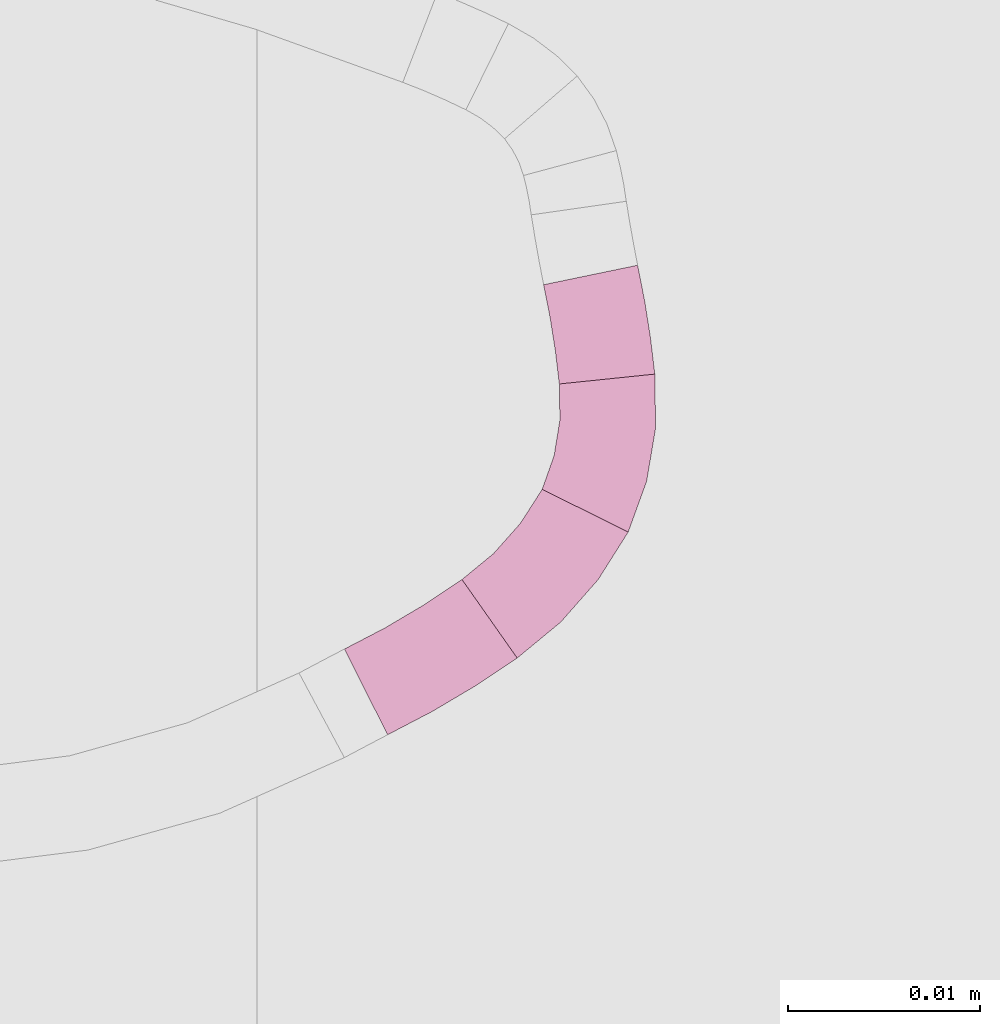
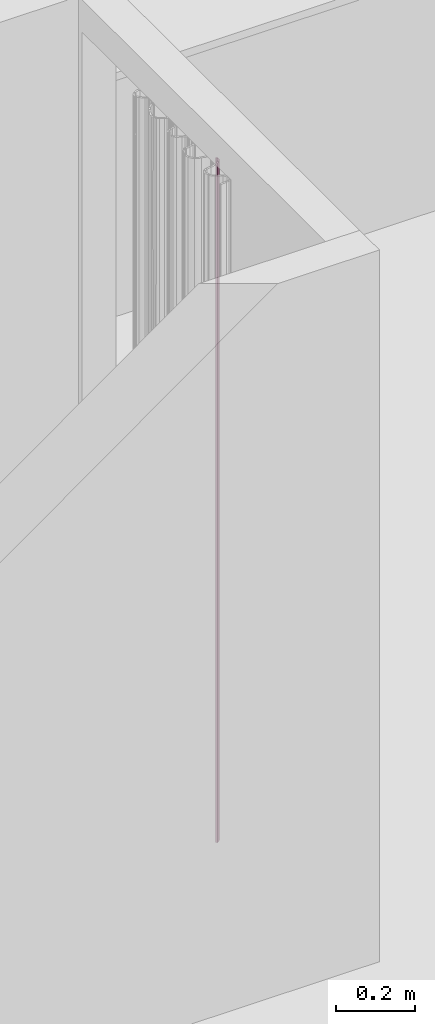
# One storey, part 291 of 418: 4 furnishings.
"""IFC2X3 building model written with IfcOpenShell, lengths in millimetres."""

from ifc_helpers import new_model, entity, si_unit, converted_unit, derived_unit, money_unit, point, direction, frame, frame_2d, origin_with_axes, place, context, subcontext, project, spatial, polyline, circle_curve, parameter, trimmed, segment, composite_curve, outline, extrude, material, type_object, element, save


model = new_model("IFC2X3")

# Units and contexts
model_context = context("Model", 3, precision=0.01, world=origin_with_axes(), true_north=direction((0.0, 1.0)))
body_context = subcontext(model_context, "Body", "Model", "MODEL_VIEW")
ifc_project = project(units=[si_unit("LENGTHUNIT", "METRE", prefix="MILLI"), si_unit("AREAUNIT", "SQUARE_METRE"), si_unit("VOLUMEUNIT", "CUBIC_METRE"), converted_unit("PLANEANGLEUNIT", "DEGREE", entity("IfcPlaneAngleMeasure", 0.0174532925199), si_unit("PLANEANGLEUNIT", "RADIAN"), dimensions=[0, 0, 0, 0, 0, 0, 0]), si_unit("SOLIDANGLEUNIT", "STERADIAN"), money_unit("EUR"), converted_unit("TIMEUNIT", "Year", entity("IfcTimeMeasure", 31556926.0), si_unit("TIMEUNIT", "SECOND"), dimensions=[0, 0, 1, 0, 0, 0, 0]), si_unit("MASSUNIT", "GRAM", prefix="KILO"), si_unit("THERMODYNAMICTEMPERATUREUNIT", "DEGREE_CELSIUS"), si_unit("LUMINOUSINTENSITYUNIT", "LUMEN"), si_unit("ENERGYUNIT", "JOULE", prefix="MEGA"), derived_unit("THERMALCONDUCTANCEUNIT", [(si_unit("POWERUNIT", "WATT"), 1), (si_unit("LENGTHUNIT", "METRE"), -1), (si_unit("THERMODYNAMICTEMPERATUREUNIT", "KELVIN"), -1)]), derived_unit("SPECIFICHEATCAPACITYUNIT", [(si_unit("ENERGYUNIT", "JOULE"), 1), (si_unit("MASSUNIT", "GRAM", prefix="KILO"), -1), (si_unit("THERMODYNAMICTEMPERATUREUNIT", "KELVIN"), -1)]), derived_unit("MASSDENSITYUNIT", [(si_unit("MASSUNIT", "GRAM", prefix="KILO"), 1), (si_unit("VOLUMEUNIT", "CUBIC_METRE"), -1)])], contexts=[model_context])

# Site, building, storey
site_placement = place(None, origin_with_axes())
site = spatial("IfcSite", under=ifc_project, at=site_placement, Name="Paldiski mnt 245/1, Tallinn, Harjumaa", CompositionType="COMPLEX")
building_placement = place(site_placement, origin_with_axes())
building = spatial("IfcBuilding", under=site, at=building_placement, Name="RKAS Hoone üldnimetus (kasutust iseloomustav) -> IFC Project Manager -> SOLIBRI", CompositionType="ELEMENT")
storey_placement = place(building_placement, origin_with_axes())
storey = spatial("IfcBuildingStorey", under=building, at=storey_placement, Name="Esimene korrus", CompositionType="ELEMENT", Elevation=0.0)

# Furnishings
ifc_material = material(Name="KON-00_GENEERILINE - KONSTRUKTSIOON")
furniture_type = type_object("IfcFurnitureType", Name="KON-00_GENEERILINE - KONSTRUKTSIOON 5", AssemblyPlace="NOTDEFINED")
furnishing_1_placement = place(storey_placement, frame((-44017.8421632, -2245.91739409, 0.0), z_axis=(0.0, 0.0, 1.0), x_axis=(0.899324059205, 0.437282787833, 0.0)))
element("IfcFurnishingElement", 1, at=furnishing_1_placement, inside=storey, type_object=furniture_type, material=ifc_material, Name="SS-51", context=body_context, shape_type="SweptSolid", body=[
    extrude(outline(composite_curve([segment(trimmed(circle_curve(frame_2d((0.0, 43.7055931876), x_axis=(0.0014492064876, -0.9999989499)), 48.7055931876), [point((0.0705844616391, -4.99994885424)), parameter(0.0)], [point((7.88707640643, -4.35716613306)), parameter(9.23611888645)], True, "CARTESIAN"), True, "CONTINUOUS"), segment(polyline([(7.88707640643, -4.35716613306), (7.08973278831, 0.578866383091)]), True, "CONTINUOUS"), segment(trimmed(circle_curve(frame_2d((0.0, 43.7055931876), x_axis=(0.0, -1.0)), 43.7055931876), [point((7.08973278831, 0.578866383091)), parameter(9.33552603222)], [point((0.0, 0.0)), parameter(0.0)], False, "CARTESIAN"), True, "CONTINUOUS"), segment(polyline([(0.0, 0.0), (0.0705844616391, -4.99994885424)]), True, "CONTINUOUS")], self_intersect=False)), origin_with_axes(), (0.0, 0.0, 1.0), 2100.0),
])
furnishing_2_placement = place(storey_placement, frame((-44011.7193243, -2242.29658751, 0.0), z_axis=(0.0, 0.0, 1.0), x_axis=(0.819853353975, 0.572573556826, 0.0)))
element("IfcFurnishingElement", 2, at=furnishing_2_placement, inside=storey, type_object=furniture_type, material=ifc_material, Name="SS-50", context=body_context, shape_type="SweptSolid", body=[
    extrude(outline(composite_curve([segment(trimmed(circle_curve(frame_2d((0.0, 13.5477258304), x_axis=(0.00083177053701, -0.999999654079)), 18.5477258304), [point((0.0154274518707, -4.99999358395)), parameter(0.0)], [point((8.51264229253, -2.93114108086)), parameter(27.2722852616)], True, "CARTESIAN"), True, "CONTINUOUS"), segment(polyline([(8.51264229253, -2.93114108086), (6.11522540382, 1.45868561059)]), True, "CONTINUOUS"), segment(trimmed(circle_curve(frame_2d((0.0, 13.5477258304), x_axis=(0.0, -1.0)), 13.5477258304), [point((6.11522540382, 1.45868561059)), parameter(26.83250865)], [point((-1.06581410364e-10, 0.0)), parameter(0.0)], False, "CARTESIAN"), True, "CONTINUOUS"), segment(polyline([(-1.06581410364e-10, 0.0), (0.0154274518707, -4.99999358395)]), True, "CONTINUOUS")], self_intersect=False)), origin_with_axes(), (0.0, 0.0, 1.0), 2100.0),
])
furnishing_3_placement = place(storey_placement, frame((-44007.540941, -2237.59926286, 0.0), z_axis=(0.0, 0.0, 1.0), x_axis=(0.415536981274, 0.909576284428, 0.0)))
element("IfcFurnishingElement", 3, at=furnishing_3_placement, inside=storey, type_object=furniture_type, material=ifc_material, Name="SS-49", context=body_context, shape_type="SweptSolid", body=[
    extrude(outline(composite_curve([segment(trimmed(circle_curve(frame_2d((0.0, 10.5171573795), x_axis=(-0.0105562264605, -0.999944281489)), 15.5171573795), [point((-0.163802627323, -4.9991354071)), parameter(0.0)], [point((7.89570302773, -2.84098795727)), parameter(31.1912290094)], True, "CARTESIAN"), True, "CONTINUOUS"), segment(polyline([(7.89570302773, -2.84098795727), (5.36177415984, 1.46939648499)]), True, "CONTINUOUS"), segment(trimmed(circle_curve(frame_2d((0.0, 10.5171573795), x_axis=(0.0, -1.0)), 10.5171573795), [point((5.36177415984, 1.46939648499)), parameter(30.6513150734)], [point((0.0, 0.0)), parameter(0.0)], False, "CARTESIAN"), True, "CONTINUOUS"), segment(polyline([(0.0, 0.0), (-0.163802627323, -4.9991354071)]), True, "CONTINUOUS")], self_intersect=False)), origin_with_axes(), (0.0, 0.0, 1.0), 2100.0),
])
furnishing_4_placement = place(storey_placement, frame((-44006.6494538, -2232.11173166, 0.0), z_axis=(0.0, 0.0, 1.0), x_axis=(-0.099702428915, 0.99501729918, 0.0)))
element("IfcFurnishingElement", 4, at=furnishing_4_placement, inside=storey, type_object=furniture_type, material=ifc_material, Name="SS-48", context=body_context, shape_type="SweptSolid", body=[
    extrude(outline(composite_curve([segment(trimmed(circle_curve(frame_2d((0.0, 46.0433148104), x_axis=(0.000298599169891, -0.999999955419)), 51.0433148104), [point((0.0152414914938, -4.99999772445)), parameter(0.0)], [point((5.74665625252, -4.67547784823)), parameter(6.44718006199)], True, "CARTESIAN"), True, "CONTINUOUS"), segment(polyline([(5.74665625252, -4.67547784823), (5.22466707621, 0.297389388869)]), True, "CONTINUOUS"), segment(trimmed(circle_curve(frame_2d((0.0, 46.0433148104), x_axis=(0.0, -1.0)), 46.0433148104), [point((5.22466707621, 0.297389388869)), parameter(6.51555036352)], [point((0.0, 0.0)), parameter(0.0)], False, "CARTESIAN"), True, "CONTINUOUS"), segment(polyline([(0.0, 0.0), (0.0152414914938, -4.99999772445)]), True, "CONTINUOUS")], self_intersect=False)), origin_with_axes(), (0.0, 0.0, 1.0), 2100.0),
])

save(model, "model.ifc")
